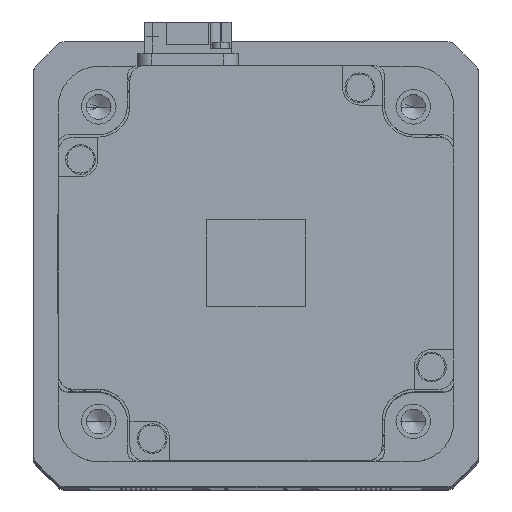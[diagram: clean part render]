
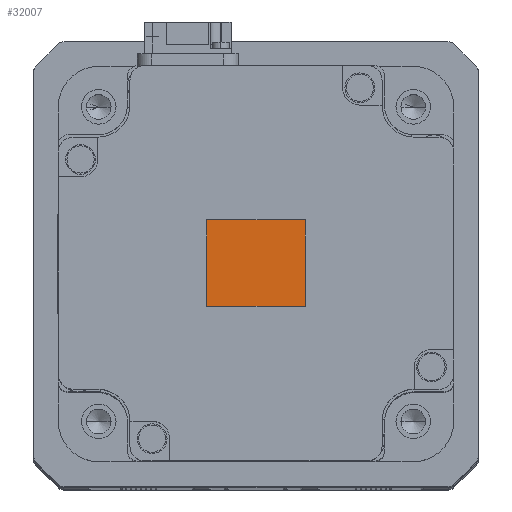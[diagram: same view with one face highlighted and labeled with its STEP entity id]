
A CAD part, top view. The second image highlights one B-rep face of the part: STEP entity #32007.
In plain terms, the highlighted planar face has unit normal (0, 0, 1) as drawn and (0, 0, -1) by its records, which use the part's own axes.
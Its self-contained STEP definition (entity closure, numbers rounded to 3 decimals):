
#1704 = ORIENTED_EDGE ( 'NONE', *, *, #25844, .T. ) ;
#3214 = VERTEX_POINT ( 'NONE', #25890 ) ;
#4863 = VERTEX_POINT ( 'NONE', #33766 ) ;
#6348 = FACE_OUTER_BOUND ( 'NONE', #44701, .T. ) ;
#7292 = ORIENTED_EDGE ( 'NONE', *, *, #8830, .T. ) ;
#7767 = DIRECTION ( 'NONE',  ( 0., 0., -1. ) ) ;
#8830 = EDGE_CURVE ( 'NONE', #3214, #4863, #35386, .T. ) ;
#9034 = DIRECTION ( 'NONE',  ( 0., -1., 0. ) ) ;
#10391 = EDGE_CURVE ( 'NONE', #33713, #28480, #11770, .T. ) ;
#11770 = LINE ( 'NONE', #29902, #38493 ) ;
#16890 = CARTESIAN_POINT ( 'NONE',  ( 10., -8.75, -115.1 ) ) ;
#18308 = LINE ( 'NONE', #24164, #45049 ) ;
#21573 = ORIENTED_EDGE ( 'NONE', *, *, #21814, .T. ) ;
#21578 = AXIS2_PLACEMENT_3D ( 'NONE', #35646, #7767, #42660 ) ;
#21814 = EDGE_CURVE ( 'NONE', #28480, #3214, #18308, .T. ) ;
#23178 = CARTESIAN_POINT ( 'NONE',  ( 10., 8.75, -115.1 ) ) ;
#24164 = CARTESIAN_POINT ( 'NONE',  ( 10., -8.75, -115.1 ) ) ;
#25844 = EDGE_CURVE ( 'NONE', #4863, #33713, #38252, .T. ) ;
#25890 = CARTESIAN_POINT ( 'NONE',  ( -10., -8.75, -115.1 ) ) ;
#26546 = DIRECTION ( 'NONE',  ( 1., 0., 0. ) ) ;
#26788 = VECTOR ( 'NONE', #26546, 1000. ) ;
#28480 = VERTEX_POINT ( 'NONE', #16890 ) ;
#29902 = CARTESIAN_POINT ( 'NONE',  ( 10., 8.75, -115.1 ) ) ;
#31496 = CARTESIAN_POINT ( 'NONE',  ( -10., 8.75, -115.1 ) ) ;
#32007 = ADVANCED_FACE ( 'NONE', ( #6348 ), #39162, .T. ) ;
#33204 = ORIENTED_EDGE ( 'NONE', *, *, #10391, .T. ) ;
#33713 = VERTEX_POINT ( 'NONE', #40499 ) ;
#33766 = CARTESIAN_POINT ( 'NONE',  ( -10., 8.75, -115.1 ) ) ;
#34294 = VECTOR ( 'NONE', #35028, 1000. ) ;
#35028 = DIRECTION ( 'NONE',  ( 0., 1., 0. ) ) ;
#35386 = LINE ( 'NONE', #31496, #34294 ) ;
#35646 = CARTESIAN_POINT ( 'NONE',  ( 10., -8.75, -115.1 ) ) ;
#38252 = LINE ( 'NONE', #23178, #26788 ) ;
#38493 = VECTOR ( 'NONE', #9034, 1000. ) ;
#39162 = PLANE ( 'NONE',  #21578 ) ;
#40499 = CARTESIAN_POINT ( 'NONE',  ( 10., 8.75, -115.1 ) ) ;
#42660 = DIRECTION ( 'NONE',  ( -1., 0., 0. ) ) ;
#44701 = EDGE_LOOP ( 'NONE', ( #7292, #1704, #33204, #21573 ) ) ;
#45049 = VECTOR ( 'NONE', #45225, 1000. ) ;
#45225 = DIRECTION ( 'NONE',  ( -1., 0., 0. ) ) ;
